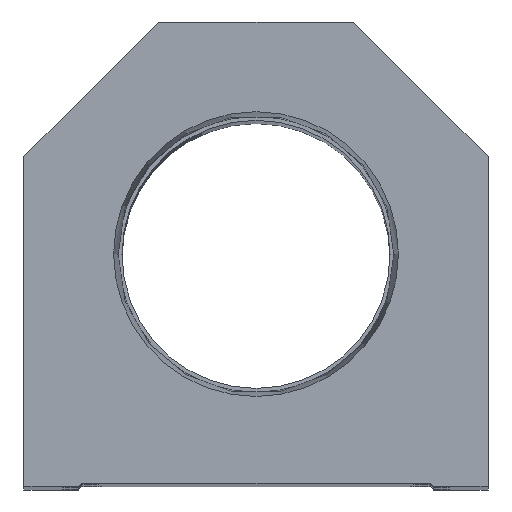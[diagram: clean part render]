
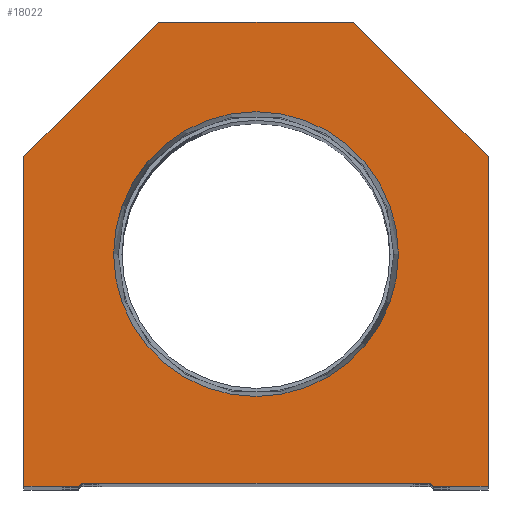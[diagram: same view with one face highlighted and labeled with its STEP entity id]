
A CAD part, top view. The second image highlights one B-rep face of the part: STEP entity #18022.
In plain terms, the highlighted planar face has unit normal (0, 0, 1).
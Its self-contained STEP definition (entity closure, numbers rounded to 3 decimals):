
#25 = EDGE_CURVE ( 'NONE', #18367, #18156, #3492, .T. ) ;
#219 = DIRECTION ( 'NONE',  ( 0., 0., 1. ) ) ;
#283 = CARTESIAN_POINT ( 'NONE',  ( 38.1, 0., 0. ) ) ;
#319 = CARTESIAN_POINT ( 'NONE',  ( 38.1, 0., 0. ) ) ;
#352 = CARTESIAN_POINT ( 'NONE',  ( 38.1, 54.1, 0. ) ) ;
#430 = LINE ( 'NONE', #17358, #5361 ) ;
#485 = AXIS2_PLACEMENT_3D ( 'NONE', #16270, #2557, #4074 ) ;
#515 = VECTOR ( 'NONE', #2878, 1000. ) ;
#597 = EDGE_CURVE ( 'NONE', #18156, #3170, #766, .T. ) ;
#766 = LINE ( 'NONE', #19185, #5506 ) ;
#863 = VERTEX_POINT ( 'NONE', #4069 ) ;
#970 = VERTEX_POINT ( 'NONE', #19546 ) ;
#1259 = ORIENTED_EDGE ( 'NONE', *, *, #25, .T. ) ;
#1874 = ORIENTED_EDGE ( 'NONE', *, *, #4223, .T. ) ;
#1960 = FACE_OUTER_BOUND ( 'NONE', #3714, .T. ) ;
#2005 = EDGE_CURVE ( 'NONE', #3170, #12595, #8459, .T. ) ;
#2065 = CARTESIAN_POINT ( 'NONE',  ( -28.6, 0., 0. ) ) ;
#2078 = CARTESIAN_POINT ( 'NONE',  ( -38.1, 54.1, 0. ) ) ;
#2092 = VERTEX_POINT ( 'NONE', #16616 ) ;
#2557 = DIRECTION ( 'NONE',  ( 0., 0., 1. ) ) ;
#2878 = DIRECTION ( 'NONE',  ( -0.707, -0.707, 0. ) ) ;
#2895 = VECTOR ( 'NONE', #5587, 1000. ) ;
#2918 = AXIS2_PLACEMENT_3D ( 'NONE', #6565, #219, #10985 ) ;
#3133 = CARTESIAN_POINT ( 'NONE',  ( 29.1, 0., 0. ) ) ;
#3170 = VERTEX_POINT ( 'NONE', #19701 ) ;
#3258 = VECTOR ( 'NONE', #15131, 1000. ) ;
#3260 = EDGE_CURVE ( 'NONE', #970, #11404, #17195, .T. ) ;
#3492 = LINE ( 'NONE', #2065, #2895 ) ;
#3714 = EDGE_LOOP ( 'NONE', ( #1259, #12249, #11288, #16053, #7788, #1874, #10355, #5195, #11053, #10662 ) ) ;
#3781 = FACE_BOUND ( 'NONE', #16991, .T. ) ;
#4069 = CARTESIAN_POINT ( 'NONE',  ( -23.374, 38.1, 0. ) ) ;
#4074 = DIRECTION ( 'NONE',  ( 1., 0., 0. ) ) ;
#4223 = EDGE_CURVE ( 'NONE', #14470, #14088, #7861, .T. ) ;
#4607 = CARTESIAN_POINT ( 'NONE',  ( 28.6, 0.5, 0. ) ) ;
#4771 = DIRECTION ( 'NONE',  ( 1., 0., 0. ) ) ;
#5060 = LINE ( 'NONE', #6754, #17933 ) ;
#5195 = ORIENTED_EDGE ( 'NONE', *, *, #3260, .T. ) ;
#5334 = DIRECTION ( 'NONE',  ( 1., 0., 0. ) ) ;
#5361 = VECTOR ( 'NONE', #6573, 1000. ) ;
#5379 = CARTESIAN_POINT ( 'NONE',  ( 0., 0., 0. ) ) ;
#5441 = CARTESIAN_POINT ( 'NONE',  ( -28.6, 0.5, 0. ) ) ;
#5506 = VECTOR ( 'NONE', #15985, 1000. ) ;
#5563 = CARTESIAN_POINT ( 'NONE',  ( -38.1, 0., 0. ) ) ;
#5587 = DIRECTION ( 'NONE',  ( 1., 0., 0. ) ) ;
#6115 = VERTEX_POINT ( 'NONE', #3133 ) ;
#6565 = CARTESIAN_POINT ( 'NONE',  ( 0., 38.1, 0. ) ) ;
#6573 = DIRECTION ( 'NONE',  ( -0.707, 0.707, 0. ) ) ;
#6660 = EDGE_CURVE ( 'NONE', #6115, #14470, #13843, .T. ) ;
#6754 = CARTESIAN_POINT ( 'NONE',  ( -38.1, 0., 0. ) ) ;
#7788 = ORIENTED_EDGE ( 'NONE', *, *, #6660, .T. ) ;
#7861 = LINE ( 'NONE', #319, #3258 ) ;
#8459 = LINE ( 'NONE', #5441, #12423 ) ;
#8658 = EDGE_CURVE ( 'NONE', #2092, #863, #9162, .T. ) ;
#8662 = CARTESIAN_POINT ( 'NONE',  ( -16., 76.2, 0. ) ) ;
#9162 = CIRCLE ( 'NONE', #485, 23.374 ) ;
#10012 = DIRECTION ( 'NONE',  ( 1., 0., 0. ) ) ;
#10355 = ORIENTED_EDGE ( 'NONE', *, *, #17102, .T. ) ;
#10662 = ORIENTED_EDGE ( 'NONE', *, *, #14345, .T. ) ;
#10985 = DIRECTION ( 'NONE',  ( 1., 0., 0. ) ) ;
#11053 = ORIENTED_EDGE ( 'NONE', *, *, #16779, .T. ) ;
#11173 = DIRECTION ( 'NONE',  ( 0., -1., 0. ) ) ;
#11206 = DIRECTION ( 'NONE',  ( 0., 0., 1. ) ) ;
#11288 = ORIENTED_EDGE ( 'NONE', *, *, #2005, .T. ) ;
#11404 = VERTEX_POINT ( 'NONE', #8662 ) ;
#11584 = CIRCLE ( 'NONE', #2918, 23.374 ) ;
#11826 = CARTESIAN_POINT ( 'NONE',  ( -38.1, 54.1, 0. ) ) ;
#11962 = CARTESIAN_POINT ( 'NONE',  ( 14.55, 14.55, 0. ) ) ;
#11969 = EDGE_CURVE ( 'NONE', #12595, #6115, #19552, .T. ) ;
#12214 = ORIENTED_EDGE ( 'NONE', *, *, #14396, .F. ) ;
#12249 = ORIENTED_EDGE ( 'NONE', *, *, #597, .T. ) ;
#12423 = VECTOR ( 'NONE', #5334, 1000. ) ;
#12595 = VERTEX_POINT ( 'NONE', #4607 ) ;
#12618 = DIRECTION ( 'NONE',  ( -1., 0., 0. ) ) ;
#13710 = VECTOR ( 'NONE', #18040, 1000. ) ;
#13843 = LINE ( 'NONE', #17044, #16450 ) ;
#13853 = CARTESIAN_POINT ( 'NONE',  ( -29.1, 0., 0. ) ) ;
#14088 = VERTEX_POINT ( 'NONE', #352 ) ;
#14345 = EDGE_CURVE ( 'NONE', #15908, #18367, #5060, .T. ) ;
#14396 = EDGE_CURVE ( 'NONE', #863, #2092, #11584, .T. ) ;
#14470 = VERTEX_POINT ( 'NONE', #283 ) ;
#15131 = DIRECTION ( 'NONE',  ( 0., 1., 0. ) ) ;
#15908 = VERTEX_POINT ( 'NONE', #2078 ) ;
#15985 = DIRECTION ( 'NONE',  ( 0.707, 0.707, 0. ) ) ;
#16008 = ORIENTED_EDGE ( 'NONE', *, *, #8658, .F. ) ;
#16053 = ORIENTED_EDGE ( 'NONE', *, *, #11969, .T. ) ;
#16270 = CARTESIAN_POINT ( 'NONE',  ( 0., 38.1, 0. ) ) ;
#16450 = VECTOR ( 'NONE', #4771, 1000. ) ;
#16616 = CARTESIAN_POINT ( 'NONE',  ( 23.374, 38.1, 0. ) ) ;
#16779 = EDGE_CURVE ( 'NONE', #11404, #15908, #18195, .T. ) ;
#16991 = EDGE_LOOP ( 'NONE', ( #16008, #12214 ) ) ;
#17044 = CARTESIAN_POINT ( 'NONE',  ( 28.6, 0., 0. ) ) ;
#17088 = CARTESIAN_POINT ( 'NONE',  ( 16., 76.2, 0. ) ) ;
#17102 = EDGE_CURVE ( 'NONE', #14088, #970, #430, .T. ) ;
#17195 = LINE ( 'NONE', #17088, #19786 ) ;
#17358 = CARTESIAN_POINT ( 'NONE',  ( 38.1, 54.1, 0. ) ) ;
#17829 = AXIS2_PLACEMENT_3D ( 'NONE', #5379, #11206, #10012 ) ;
#17933 = VECTOR ( 'NONE', #11173, 1000. ) ;
#18022 = ADVANCED_FACE ( 'NONE', ( #3781, #1960 ), #19072, .T. ) ;
#18040 = DIRECTION ( 'NONE',  ( 0.707, -0.707, 0. ) ) ;
#18156 = VERTEX_POINT ( 'NONE', #13853 ) ;
#18195 = LINE ( 'NONE', #11826, #515 ) ;
#18367 = VERTEX_POINT ( 'NONE', #5563 ) ;
#19072 = PLANE ( 'NONE',  #17829 ) ;
#19185 = CARTESIAN_POINT ( 'NONE',  ( -14.55, 14.55, 0. ) ) ;
#19546 = CARTESIAN_POINT ( 'NONE',  ( 16., 76.2, 0. ) ) ;
#19552 = LINE ( 'NONE', #11962, #13710 ) ;
#19701 = CARTESIAN_POINT ( 'NONE',  ( -28.6, 0.5, 0. ) ) ;
#19786 = VECTOR ( 'NONE', #12618, 1000. ) ;
